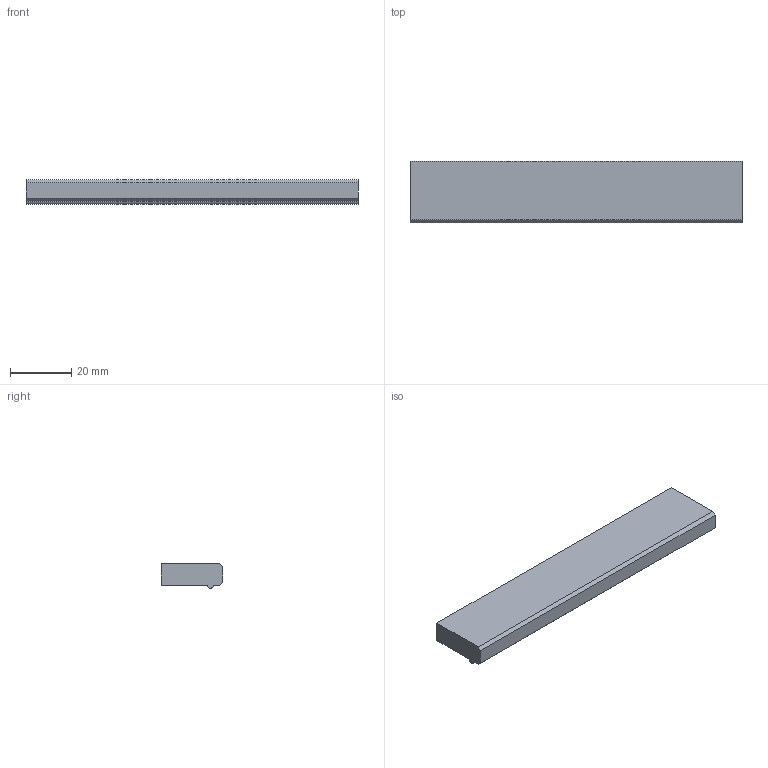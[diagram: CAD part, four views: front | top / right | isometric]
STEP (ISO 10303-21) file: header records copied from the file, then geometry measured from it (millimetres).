
FILE_DESCRIPTION( ( '' ), '1' );
FILE_NAME( 'D:/1.AUTOCAD EXPORT/Group 10/sheet_10_1/115023.stp', '2013-10-21T12:16:53', ( '' ), ( '' ), ' ', ' ', ' ' );
FILE_SCHEMA( ( 'automotive_design' ) );
Length unit declared in the file: millimetre
Products named in the file (1): 1
Bounding box: 108 x 20 x 8 mm (x, y, z)
Volume: 14980.6 mm3; surface area: 6311 mm2
Topology: 1 solids, 1 shells, 16 faces, 36 edges, 24 vertices
Faces by surface type: plane 11, cylinder 5
Entity records: 902 total; most frequent: DIRECTION 80, STYLED_ITEM 77, PRESENTATION_STYLE_ASSIGNMENT 77, CARTESIAN_POINT 77, COLOUR_RGB 77, ORIENTED_EDGE 72, EDGE_CURVE 36, CURVE_STYLE 36
